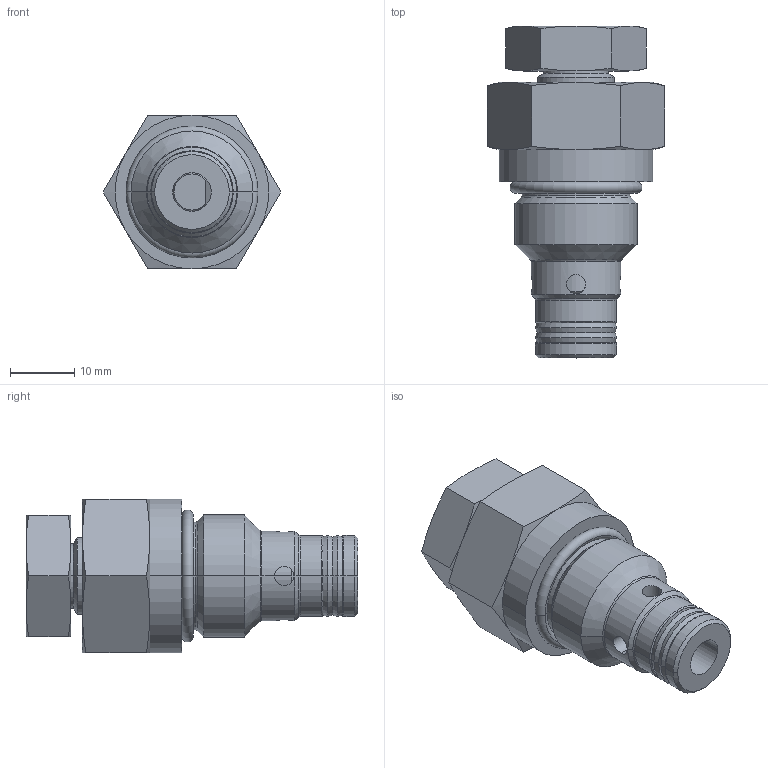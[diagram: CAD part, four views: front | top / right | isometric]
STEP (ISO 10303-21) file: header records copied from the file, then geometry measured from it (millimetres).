
FILE_DESCRIPTION((''),'2;1');
FILE_NAME('29243000_SW0001','2016-03-04T',('d.helta'),(''),'PRO/ENGINEER BY PARAMETRIC TECHNOLOGY CORPORATION, 2015110','PRO/ENGINEER BY PARAMETRIC TECHNOLOGY CORPORATION, 2015110','');
FILE_SCHEMA(('AUTOMOTIVE_DESIGN { 1 0 10303 214 1 1 1 1 }'));
Length unit declared in the file: millimetre
Products named in the file (1): 29243000_SW0001
Bounding box: 27.71 x 51.8 x 24 mm (x, y, z)
Surface area: 6468.5 mm2 (no closed solid volume)
Topology: 0 solids, 9 shells, 138 faces, 361 edges, 227 vertices
Faces by surface type: cone 53, plane 37, cylinder 32, torus 16
Entity records: 7481 total; most frequent: CARTESIAN_POINT 2168, DIRECTION 703, ORIENTED_EDGE 671, PRESENTATION_STYLE_ASSIGNMENT 437, STYLED_ITEM 364, CURVE_STYLE 360, EDGE_CURVE 356, AXIS2_PLACEMENT_3D 299
